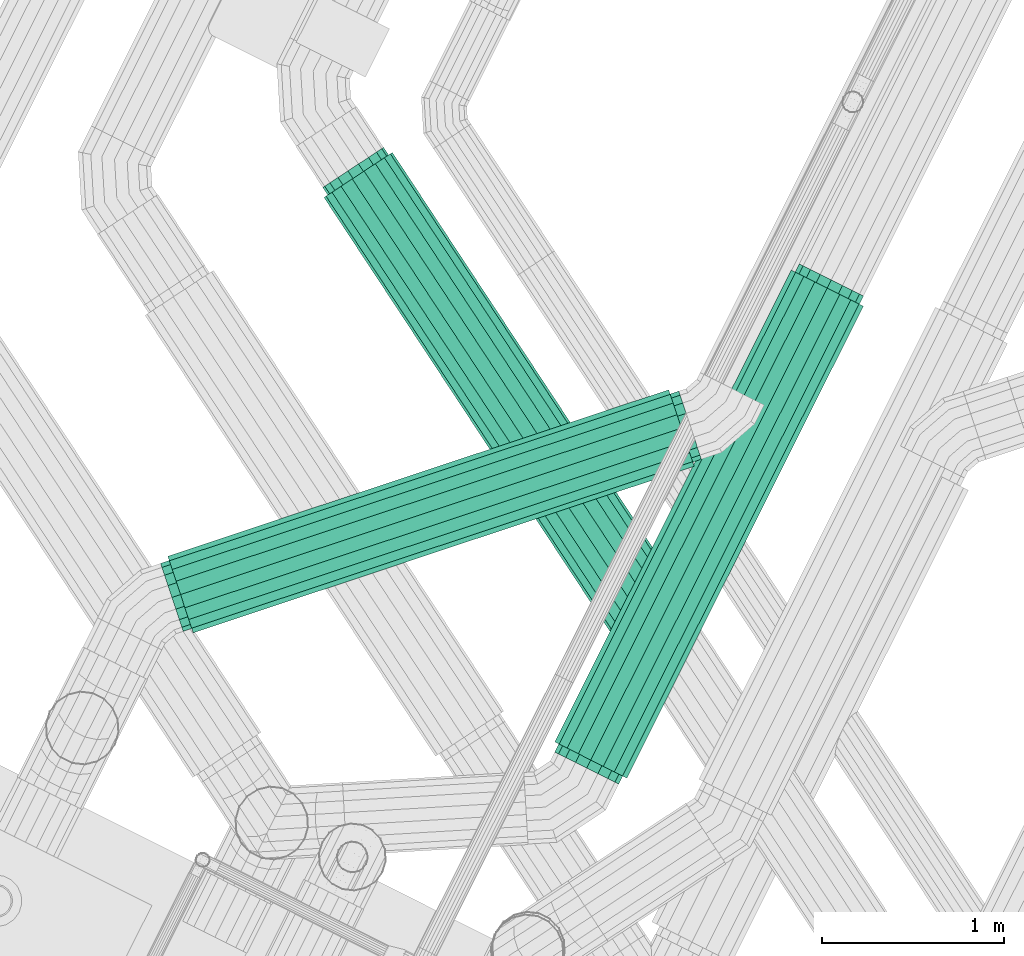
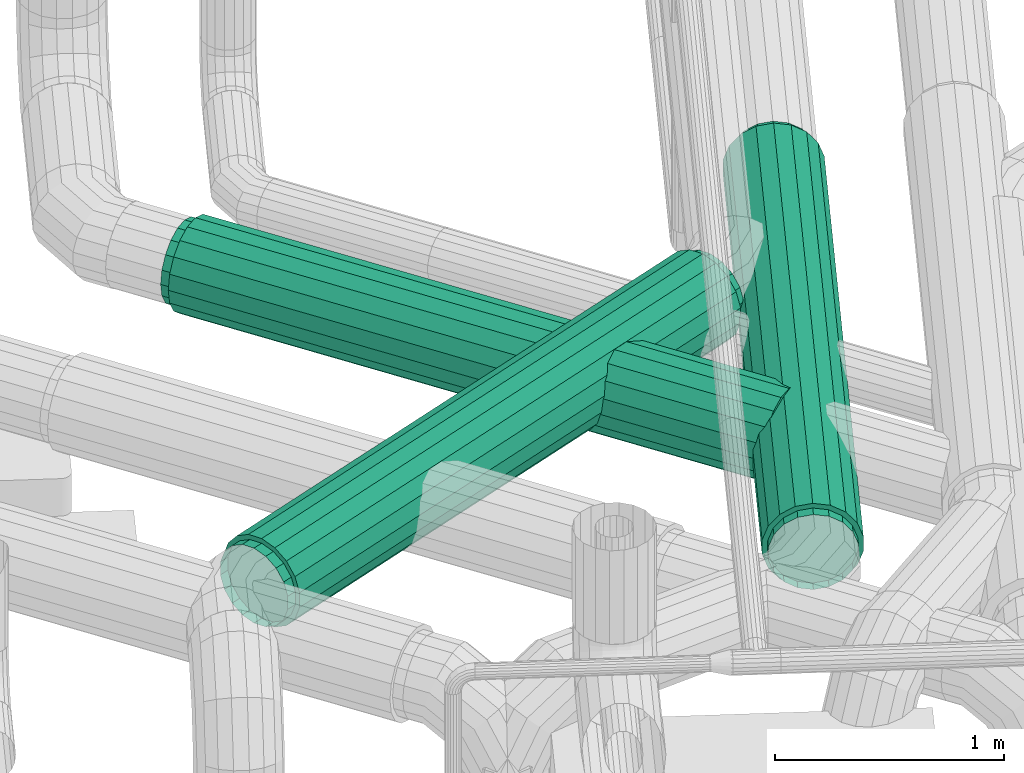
# One storey, part 19 of 206: 3 flow treatment devices.
"""IFC2X3 building model written with IfcOpenShell, lengths in metres."""

from ifc_helpers import new_model, si_unit, derived_unit, direction, frame, origin, place, context, subcontext, project, spatial, face_set, surface_model, source, transform, mapped, material, type_object, type_shapes, element, save


model = new_model("IFC2X3")

# Units and contexts
model_context = context("Model", 3, precision=5.2338327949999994e-05, world=origin(), true_north=direction((0.0, 1.0)))
body_context = subcontext(model_context, "Body", "Model", "MODEL_VIEW")
ifc_project = project(units=[si_unit("LENGTHUNIT", "METRE"), si_unit("AREAUNIT", "SQUARE_METRE"), si_unit("VOLUMEUNIT", "CUBIC_METRE"), si_unit("MASSUNIT", "GRAM", prefix="KILO"), si_unit("PLANEANGLEUNIT", "RADIAN"), derived_unit("THERMALTRANSMITTANCEUNIT", [(si_unit("MASSUNIT", "GRAM", prefix="KILO"), 1), (si_unit("THERMODYNAMICTEMPERATUREUNIT", "KELVIN"), -1), (si_unit("TIMEUNIT", "SECOND"), -3)])], contexts=[model_context])

# Site, building, storey
site_placement = place(None, frame((0.0, 0.0, 0.0), z_axis=(0.0, 0.0, 1.0), x_axis=(0.8939966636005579, -0.4480736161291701, 0.0)))
site = spatial("IfcSite", under=ifc_project, at=site_placement, Name="Default", CompositionType="ELEMENT")
building_placement = place(site_placement, origin())
building = spatial("IfcBuilding", under=site, at=building_placement, CompositionType="ELEMENT")
storey_placement = place(building_placement, origin())
storey = spatial("IfcBuildingStorey", under=building, at=storey_placement, Name="Erdgeschoss", CompositionType="ELEMENT", Elevation=0.0)

# Flow treatment devices
ifc_material = material(Name="IfcSurfaceStyle #280217")
distribution_element_type_1 = type_object("IfcDistributionElementType", Name="Telefonieschalldämpfer 281422:Telefonieschalldämpfer 281422", material=ifc_material)
shared_shape_1 = source(origin(), body_context, "Body", "SurfaceModel", [
    surface_model("IfcFaceBasedSurfaceModel", [(23.88822673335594, 10.17601061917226, 2.1999999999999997), (23.894257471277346, 10.186456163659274, 2.2684040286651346), (23.85095620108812, 10.211456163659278, 2.2684040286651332), (23.844925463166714, 10.201010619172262, 2.1999999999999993), (23.911622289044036, 10.216532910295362, 2.328557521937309), (23.868321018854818, 10.241532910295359, 2.32855752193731), (23.938226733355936, 10.262613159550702, 2.3732050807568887), (23.89492546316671, 10.287613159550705, 2.3732050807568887), (23.970861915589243, 10.319138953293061, 2.3969615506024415), (23.927560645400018, 10.344138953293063, 2.396961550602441), (24.005591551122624, 10.379292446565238, 2.3969615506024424), (23.96229028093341, 10.404292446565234, 2.3969615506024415), (24.038226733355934, 10.435818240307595, 2.3732050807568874), (23.99492546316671, 10.460818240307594, 2.373205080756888), (24.064831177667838, 10.481898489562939, 2.3285575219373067), (24.021529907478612, 10.506898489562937, 2.3285575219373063), (24.082195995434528, 10.511975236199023, 2.2684040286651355), (24.0388947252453, 10.536975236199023, 2.268404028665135), (24.088226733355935, 10.522420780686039, 2.200000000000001), (24.044925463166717, 10.547420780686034, 2.200000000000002), (24.08219599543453, 10.511975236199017, 2.131595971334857), (24.0388947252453, 10.536975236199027, 2.1315959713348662), (24.064831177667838, 10.481898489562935, 2.0714424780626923), (24.021529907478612, 10.506898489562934, 2.071442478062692), (24.038226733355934, 10.435818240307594, 2.0267949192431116), (23.99492546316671, 10.460818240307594, 2.0267949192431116), (24.005591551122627, 10.379292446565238, 2.0030384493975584), (23.962290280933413, 10.404292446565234, 2.0030384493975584), (23.970861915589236, 10.319138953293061, 2.0030384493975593), (23.927560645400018, 10.34413895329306, 2.0030384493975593), (23.938226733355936, 10.262613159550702, 2.0267949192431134), (23.89492546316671, 10.287613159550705, 2.026794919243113), (23.911622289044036, 10.216532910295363, 2.071442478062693), (23.868321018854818, 10.241532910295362, 2.071442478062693), (23.894257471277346, 10.186456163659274, 2.131595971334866), (23.850956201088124, 10.21145616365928, 2.131595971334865), (23.83242546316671, 10.179359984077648, 2.2000000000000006), (23.8392100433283, 10.191111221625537, 2.276954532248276), (21.327736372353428, 11.64111122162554, 2.276954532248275), (21.32095179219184, 11.62935998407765, 2.2000000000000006), (23.85874546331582, 10.224947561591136, 2.3446272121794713), (21.34727179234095, 11.674947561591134, 2.3446272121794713), (23.888675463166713, 10.276787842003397, 2.3948557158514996), (21.377201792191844, 11.7267878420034, 2.3948557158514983), (23.925390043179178, 10.340379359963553, 2.4215817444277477), (21.413916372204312, 11.790379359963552, 2.4215817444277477), (23.964460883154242, 10.408052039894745, 2.421581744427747), (21.45298721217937, 11.858052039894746, 2.4215817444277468), (24.00117546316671, 10.471643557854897, 2.394855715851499), (21.48970179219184, 11.9216435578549, 2.394855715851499), (24.0311054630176, 10.523483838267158, 2.344627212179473), (21.519631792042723, 11.973483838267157, 2.3446272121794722), (24.05064088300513, 10.557320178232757, 2.276954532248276), (21.539167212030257, 12.007320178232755, 2.276954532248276), (24.057425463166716, 10.569071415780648, 2.2000000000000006), (21.545951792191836, 12.019071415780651, 2.1999999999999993), (24.050640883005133, 10.557320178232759, 2.1230454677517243), (21.539167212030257, 12.007320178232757, 2.1230454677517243), (24.0311054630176, 10.52348383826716, 2.0553727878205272), (21.519631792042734, 11.973483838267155, 2.055372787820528), (24.001175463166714, 10.471643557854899, 2.0051442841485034), (21.489701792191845, 11.9216435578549, 2.005144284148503), (23.964460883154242, 10.408052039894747, 1.9784182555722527), (21.45298721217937, 11.85805203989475, 1.9784182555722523), (23.925390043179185, 10.340379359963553, 1.9784182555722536), (21.413916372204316, 11.790379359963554, 1.9784182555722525), (23.888675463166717, 10.2767878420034, 2.0051442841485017), (21.377201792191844, 11.726787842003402, 2.0051442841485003), (23.85874546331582, 10.224947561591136, 2.05537278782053), (21.34727179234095, 11.674947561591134, 2.0553727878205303), (23.8392100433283, 10.191111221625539, 2.1230454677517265), (21.327736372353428, 11.64111122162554, 2.1230454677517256), (23.94492546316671, 10.374215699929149, 2.2), (21.43345179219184, 11.824215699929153, 2.1999999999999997), (21.333451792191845, 11.651010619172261, 2.1999999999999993), (21.33948253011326, 11.661456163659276, 2.268404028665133), (21.29618125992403, 11.686456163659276, 2.2684040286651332), (21.290150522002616, 11.676010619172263, 2.1999999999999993), (21.356847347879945, 11.691532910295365, 2.3285575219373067), (21.31354607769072, 11.716532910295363, 2.3285575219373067), (21.38345179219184, 11.737613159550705, 2.3732050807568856), (21.34015052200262, 11.762613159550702, 2.373205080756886), (21.41608697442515, 11.794138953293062, 2.3969615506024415), (21.372785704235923, 11.819138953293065, 2.396961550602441), (21.450816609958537, 11.854292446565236, 2.3969615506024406), (21.40751533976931, 11.879292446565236, 2.396961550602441), (21.483451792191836, 11.910818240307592, 2.373205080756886), (21.44015052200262, 11.935818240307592, 2.373205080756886), (21.51005623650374, 11.956898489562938, 2.3285575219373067), (21.46675496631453, 11.981898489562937, 2.3285575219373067), (21.52742105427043, 11.986975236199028, 2.2684040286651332), (21.484119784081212, 12.011975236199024, 2.2684040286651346), (21.533451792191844, 11.997420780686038, 2.2), (21.49015052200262, 12.022420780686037, 2.2000000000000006), (21.52742105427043, 11.986975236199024, 2.1315959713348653), (21.48411978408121, 12.011975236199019, 2.131595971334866), (21.51005623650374, 11.956898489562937, 2.071442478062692), (21.466754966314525, 11.981898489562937, 2.071442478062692), (21.483451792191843, 11.910818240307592, 2.026794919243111), (21.44015052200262, 11.935818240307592, 2.0267949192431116), (21.45081660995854, 11.854292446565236, 2.0030384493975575), (21.407515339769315, 11.879292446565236, 2.0030384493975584), (21.41608697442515, 11.794138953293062, 2.003038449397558), (21.37278570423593, 11.819138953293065, 2.003038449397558), (21.38345179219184, 11.737613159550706, 2.026794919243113), (21.34015052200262, 11.762613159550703, 2.026794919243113), (21.356847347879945, 11.69153291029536, 2.071442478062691), (21.313546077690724, 11.71653291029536, 2.071442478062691), (21.339482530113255, 11.661456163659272, 2.1315959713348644), (21.296181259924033, 11.686456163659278, 2.1315959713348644)], [face_set([[[0, 1, 2, 3]], [[1, 4, 5, 2]], [[4, 6, 7, 5]], [[6, 8, 9, 7]], [[8, 10, 11, 9]], [[10, 12, 13, 11]], [[12, 14, 15, 13]], [[14, 16, 17, 15]], [[16, 18, 19, 17]], [[18, 20, 21, 19]], [[20, 22, 23, 21]], [[22, 24, 25, 23]], [[24, 26, 27, 25]], [[26, 28, 29, 27]], [[28, 30, 31, 29]], [[30, 32, 33, 31]], [[32, 34, 35, 33]], [[34, 0, 3, 35]], [[36, 37, 38, 39]], [[37, 40, 41, 38]], [[40, 42, 43, 41]], [[42, 44, 45, 43]], [[44, 46, 47, 45]], [[46, 48, 49, 47]], [[48, 50, 51, 49]], [[50, 52, 53, 51]], [[52, 54, 55, 53]], [[54, 56, 57, 55]], [[56, 58, 59, 57]], [[58, 60, 61, 59]], [[60, 62, 63, 61]], [[62, 64, 65, 63]], [[64, 66, 67, 65]], [[66, 68, 69, 67]], [[68, 70, 71, 69]], [[70, 36, 39, 71]], [[72, 37, 36]], [[72, 40, 37]], [[72, 42, 40]], [[72, 44, 42]], [[72, 46, 44]], [[72, 48, 46]], [[72, 50, 48]], [[72, 52, 50]], [[72, 54, 52]], [[72, 56, 54]], [[72, 58, 56]], [[72, 60, 58]], [[72, 62, 60]], [[72, 64, 62]], [[72, 66, 64]], [[72, 68, 66]], [[72, 70, 68]], [[72, 36, 70]], [[73, 71, 39]], [[73, 69, 71]], [[73, 67, 69]], [[73, 65, 67]], [[73, 63, 65]], [[73, 61, 63]], [[73, 59, 61]], [[73, 57, 59]], [[73, 55, 57]], [[73, 53, 55]], [[73, 51, 53]], [[73, 49, 51]], [[73, 47, 49]], [[73, 45, 47]], [[73, 43, 45]], [[73, 41, 43]], [[73, 38, 41]], [[73, 39, 38]], [[74, 75, 76, 77]], [[75, 78, 79, 76]], [[78, 80, 81, 79]], [[80, 82, 83, 81]], [[82, 84, 85, 83]], [[84, 86, 87, 85]], [[86, 88, 89, 87]], [[88, 90, 91, 89]], [[90, 92, 93, 91]], [[92, 94, 95, 93]], [[94, 96, 97, 95]], [[96, 98, 99, 97]], [[98, 100, 101, 99]], [[100, 102, 103, 101]], [[102, 104, 105, 103]], [[104, 106, 107, 105]], [[106, 108, 109, 107]], [[108, 74, 77, 109]]])]),
])
type_shapes(distribution_element_type_1, [shared_shape_1])
flow_treatment_device_1_placement = place(storey_placement, origin())
element("IfcFlowTreatmentDevice", 1, at=flow_treatment_device_1_placement, inside=storey, type_object=distribution_element_type_1, material=ifc_material, Name="Telefonieschalldämpfer", ObjectType="Telefonieschalldämpfer", context=body_context, shape_type="MappedRepresentation", body=[
    mapped(shared_shape_1, transform((0.0, 0.0, 0.0), scale=1.0)),
])
distribution_element_type_2 = type_object("IfcDistributionElementType", Name="Telefonieschalldämpfer 296637:Telefonieschalldämpfer 296637", material=ifc_material)
shared_shape_2 = source(origin(), body_context, "Body", "SurfaceModel", [
    surface_model("IfcFaceBasedSurfaceModel", [(24.01588544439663, 12.473429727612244, 2.4000000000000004), (23.947481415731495, 12.473429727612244, 2.387938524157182), (23.947481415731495, 12.42342972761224, 2.387938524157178), (24.01588544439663, 12.42342972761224, 2.3999999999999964), (23.88732792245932, 12.473429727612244, 2.3532088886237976), (23.88732792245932, 12.423429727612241, 2.3532088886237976), (23.842680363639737, 12.473429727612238, 2.3000000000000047), (23.842680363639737, 12.423429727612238, 2.300000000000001), (23.818923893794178, 12.473429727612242, 2.2347296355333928), (23.818923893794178, 12.42342972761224, 2.2347296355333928), (23.818923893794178, 12.473429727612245, 2.165270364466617), (23.818923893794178, 12.423429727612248, 2.165270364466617), (23.842680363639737, 12.473429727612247, 2.100000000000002), (23.842680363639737, 12.423429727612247, 2.100000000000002), (23.88732792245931, 12.473429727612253, 2.0467911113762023), (23.88732792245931, 12.42342972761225, 2.0467911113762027), (23.94748141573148, 12.47342972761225, 2.012061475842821), (23.94748141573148, 12.423429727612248, 2.0120614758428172), (24.015885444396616, 12.47342972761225, 2.0), (24.015885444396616, 12.423429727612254, 2.0), (24.084289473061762, 12.473429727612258, 2.012061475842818), (24.084289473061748, 12.423429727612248, 2.012061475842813), (24.144442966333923, 12.473429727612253, 2.0467911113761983), (24.144442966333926, 12.42342972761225, 2.0467911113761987), (24.189090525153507, 12.473429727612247, 2.099999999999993), (24.189090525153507, 12.423429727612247, 2.0999999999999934), (24.212846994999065, 12.473429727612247, 2.165270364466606), (24.212846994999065, 12.42342972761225, 2.165270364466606), (24.21284699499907, 12.473429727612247, 2.2347296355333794), (24.212846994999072, 12.423429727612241, 2.2347296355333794), (24.18909052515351, 12.473429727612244, 2.2999999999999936), (24.18909052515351, 12.423429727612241, 2.29999999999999), (24.144442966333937, 12.473429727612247, 2.35320888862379), (24.144442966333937, 12.423429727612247, 2.35320888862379), (24.084289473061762, 12.473429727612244, 2.3879385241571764), (24.084289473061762, 12.423429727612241, 2.3879385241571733), (24.015885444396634, 12.42342972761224, 2.4249999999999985), (23.93893091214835, 12.42342972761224, 2.411430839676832), (23.938930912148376, 9.52342972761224, 2.411430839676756), (24.015885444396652, 9.52342972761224, 2.4249999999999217), (23.87125823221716, 12.423429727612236, 2.3723599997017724), (23.87125823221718, 9.52342972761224, 2.3723599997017), (23.821029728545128, 12.42342972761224, 2.3125000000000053), (23.821029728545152, 9.52342972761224, 2.31249999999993), (23.79430369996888, 12.42342972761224, 2.239070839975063), (23.7943036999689, 9.523429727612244, 2.2390708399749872), (23.794303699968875, 12.423429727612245, 2.160929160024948), (23.794303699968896, 9.523429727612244, 2.1609291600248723), (23.821029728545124, 12.423429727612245, 2.087500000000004), (23.82102972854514, 9.523429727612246, 2.0874999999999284), (23.871258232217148, 12.42342972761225, 2.0276400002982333), (23.871258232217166, 9.52342972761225, 2.0276400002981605), (23.938930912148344, 12.42342972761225, 1.988569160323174), (23.938930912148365, 9.523429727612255, 1.9885691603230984), (24.015885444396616, 12.42342972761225, 1.974999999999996), (24.015885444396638, 9.523429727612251, 1.9749999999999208), (24.092839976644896, 12.423429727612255, 1.9885691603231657), (24.092839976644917, 9.523429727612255, 1.98856916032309), (24.160512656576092, 12.423429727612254, 2.0276400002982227), (24.160512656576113, 9.523429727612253, 2.0276400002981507), (24.210741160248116, 12.423429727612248, 2.087499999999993), (24.210741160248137, 9.52342972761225, 2.0874999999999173), (24.23746718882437, 12.423429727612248, 2.1609291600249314), (24.23746718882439, 9.523429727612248, 2.160929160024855), (24.237467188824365, 12.423429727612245, 2.2390708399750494), (24.23746718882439, 9.523429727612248, 2.239070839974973), (24.210741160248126, 12.423429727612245, 2.3124999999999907), (24.210741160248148, 9.523429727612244, 2.3124999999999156), (24.1605126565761, 12.423429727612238, 2.372359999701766), (24.160512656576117, 9.52342972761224, 2.372359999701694), (24.0928399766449, 12.423429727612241, 2.4114308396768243), (24.092839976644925, 9.52342972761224, 2.411430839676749), (24.015885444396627, 12.423429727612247, 2.1999999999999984), (24.01588544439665, 9.523429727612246, 2.1999999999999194), (24.015885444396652, 9.52342972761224, 2.399999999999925), (23.947481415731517, 9.52342972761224, 2.387938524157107), (23.947481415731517, 9.47342972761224, 2.3879385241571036), (24.015885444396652, 9.473429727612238, 2.3999999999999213), (23.887327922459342, 9.52342972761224, 2.3532088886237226), (23.887327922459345, 9.473429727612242, 2.353208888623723), (23.842680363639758, 9.52342972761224, 2.2999999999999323), (23.842680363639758, 9.473429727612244, 2.2999999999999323), (23.818923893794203, 9.523429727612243, 2.2347296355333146), (23.818923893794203, 9.473429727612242, 2.234729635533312), (23.818923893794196, 9.523429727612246, 2.165270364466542), (23.818923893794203, 9.473429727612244, 2.165270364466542), (23.842680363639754, 9.523429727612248, 2.0999999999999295), (23.842680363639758, 9.473429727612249, 2.099999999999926), (23.887327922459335, 9.523429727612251, 2.046791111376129), (23.887327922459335, 9.473429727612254, 2.0467911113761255), (23.947481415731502, 9.52342972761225, 2.0120614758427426), (23.947481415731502, 9.473429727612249, 2.012061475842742), (24.015885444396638, 9.523429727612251, 2.0), (24.015885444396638, 9.473429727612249, 2.0), (24.084289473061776, 9.52342972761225, 2.012061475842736), (24.084289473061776, 9.473429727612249, 2.0120614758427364), (24.144442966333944, 9.523429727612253, 2.046791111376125), (24.144442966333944, 9.473429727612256, 2.0467911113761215), (24.189090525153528, 9.52342972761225, 2.0999999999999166), (24.189090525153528, 9.473429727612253, 2.099999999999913), (24.212846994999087, 9.52342972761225, 2.1652703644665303), (24.212846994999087, 9.473429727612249, 2.1652703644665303), (24.212846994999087, 9.523429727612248, 2.234729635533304), (24.212846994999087, 9.473429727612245, 2.2347296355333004), (24.18909052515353, 9.52342972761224, 2.2999999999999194), (24.18909052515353, 9.473429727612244, 2.29999999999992), (24.14444296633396, 9.52342972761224, 2.353208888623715), (24.14444296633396, 9.473429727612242, 2.353208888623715), (24.084289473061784, 9.52342972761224, 2.3879385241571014), (24.084289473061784, 9.47342972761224, 2.387938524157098)], [face_set([[[0, 1, 2, 3]], [[1, 4, 5, 2]], [[4, 6, 7, 5]], [[6, 8, 9, 7]], [[8, 10, 11, 9]], [[10, 12, 13, 11]], [[12, 14, 15, 13]], [[14, 16, 17, 15]], [[16, 18, 19, 17]], [[18, 20, 21, 19]], [[20, 22, 23, 21]], [[22, 24, 25, 23]], [[24, 26, 27, 25]], [[26, 28, 29, 27]], [[28, 30, 31, 29]], [[30, 32, 33, 31]], [[32, 34, 35, 33]], [[34, 0, 3, 35]], [[36, 37, 38, 39]], [[37, 40, 41, 38]], [[40, 42, 43, 41]], [[42, 44, 45, 43]], [[44, 46, 47, 45]], [[46, 48, 49, 47]], [[48, 50, 51, 49]], [[50, 52, 53, 51]], [[52, 54, 55, 53]], [[54, 56, 57, 55]], [[56, 58, 59, 57]], [[58, 60, 61, 59]], [[60, 62, 63, 61]], [[62, 64, 65, 63]], [[64, 66, 67, 65]], [[66, 68, 69, 67]], [[68, 70, 71, 69]], [[70, 36, 39, 71]], [[72, 37, 36]], [[72, 40, 37]], [[72, 42, 40]], [[72, 44, 42]], [[72, 46, 44]], [[72, 48, 46]], [[72, 50, 48]], [[72, 52, 50]], [[72, 54, 52]], [[72, 56, 54]], [[72, 58, 56]], [[72, 60, 58]], [[72, 62, 60]], [[72, 64, 62]], [[72, 66, 64]], [[72, 68, 66]], [[72, 70, 68]], [[72, 36, 70]], [[73, 71, 39]], [[73, 69, 71]], [[73, 67, 69]], [[73, 65, 67]], [[73, 63, 65]], [[73, 61, 63]], [[73, 59, 61]], [[73, 57, 59]], [[73, 55, 57]], [[73, 53, 55]], [[73, 51, 53]], [[73, 49, 51]], [[73, 47, 49]], [[73, 45, 47]], [[73, 43, 45]], [[73, 41, 43]], [[73, 38, 41]], [[73, 39, 38]], [[74, 75, 76, 77]], [[75, 78, 79, 76]], [[78, 80, 81, 79]], [[80, 82, 83, 81]], [[82, 84, 85, 83]], [[84, 86, 87, 85]], [[86, 88, 89, 87]], [[88, 90, 91, 89]], [[90, 92, 93, 91]], [[92, 94, 95, 93]], [[94, 96, 97, 95]], [[96, 98, 99, 97]], [[98, 100, 101, 99]], [[100, 102, 103, 101]], [[102, 104, 105, 103]], [[104, 106, 107, 105]], [[106, 108, 109, 107]], [[108, 74, 77, 109]]])]),
])
type_shapes(distribution_element_type_2, [shared_shape_2])
flow_treatment_device_2_placement = place(storey_placement, origin())
element("IfcFlowTreatmentDevice", 2, at=flow_treatment_device_2_placement, inside=storey, type_object=distribution_element_type_2, material=ifc_material, Name="Telefonieschalldämpfer", ObjectType="Telefonieschalldämpfer", context=body_context, shape_type="MappedRepresentation", body=[
    mapped(shared_shape_2, transform((0.0, 0.0, 0.0), scale=1.0)),
])
distribution_element_type_3 = type_object("IfcDistributionElementType", Name="Telefonieschalldämpfer 620691:Telefonieschalldämpfer 620691", material=ifc_material)
shared_shape_3 = source(origin(), body_context, "Body", "SurfaceModel", [
    surface_model("IfcFaceBasedSurfaceModel", [(21.558105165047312, 9.291051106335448, 2.0499999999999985), (21.509736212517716, 9.339420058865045, 2.062061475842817), (21.545091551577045, 9.374775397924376, 2.0620614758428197), (21.59346050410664, 9.32640644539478, 2.0500000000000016), (21.467201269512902, 9.38195500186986, 2.0967911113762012), (21.50255660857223, 9.41731034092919, 2.0967911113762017), (21.435630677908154, 9.413525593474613, 2.1499999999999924), (21.470986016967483, 9.44888093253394, 2.149999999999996), (21.418832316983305, 9.43032395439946, 2.2152703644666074), (21.454187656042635, 9.465679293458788, 2.2152703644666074), (21.418832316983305, 9.430323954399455, 2.284729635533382), (21.454187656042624, 9.465679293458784, 2.284729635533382), (21.435630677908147, 9.413525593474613, 2.349999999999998), (21.47098601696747, 9.44888093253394, 2.3499999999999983), (21.467201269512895, 9.381955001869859, 2.403208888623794), (21.50255660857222, 9.417310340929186, 2.4032088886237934), (21.5097362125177, 9.339420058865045, 2.4379385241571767), (21.54509155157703, 9.374775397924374, 2.43793852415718), (21.5581051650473, 9.291051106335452, 2.450000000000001), (21.593460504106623, 9.326406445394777, 2.450000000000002), (21.606474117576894, 9.242682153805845, 2.437938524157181), (21.641829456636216, 9.278037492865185, 2.4379385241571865), (21.649009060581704, 9.20014721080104, 2.4032088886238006), (21.684364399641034, 9.235502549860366, 2.4032088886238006), (21.680579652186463, 9.168576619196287, 2.35000000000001), (21.71593499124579, 9.203931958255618, 2.3500000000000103), (21.697378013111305, 9.151778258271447, 2.2847296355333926), (21.732733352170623, 9.187133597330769, 2.284729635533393), (21.697378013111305, 9.151778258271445, 2.21527036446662), (21.73273335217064, 9.187133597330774, 2.21527036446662), (21.680579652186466, 9.168576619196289, 2.150000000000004), (21.715934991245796, 9.203931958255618, 2.150000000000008), (21.64900906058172, 9.200147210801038, 2.09679111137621), (21.684364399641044, 9.235502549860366, 2.09679111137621), (21.6064741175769, 9.242682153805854, 2.0620614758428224), (21.641829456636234, 9.278037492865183, 2.062061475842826), (21.59346050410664, 9.32640644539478, 2.0250000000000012), (21.53904543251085, 9.380821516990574, 2.038569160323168), (23.58965509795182, 11.431431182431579, 2.038569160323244), (23.64407016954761, 11.377016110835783, 2.025000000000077), (21.49119362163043, 9.42867332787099, 2.077640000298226), (23.541803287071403, 11.479282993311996, 2.077640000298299), (21.45567670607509, 9.464190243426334, 2.137499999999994), (23.506286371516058, 11.514799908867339, 2.1375000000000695), (21.436778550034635, 9.483088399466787, 2.210929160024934), (23.487388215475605, 11.53369806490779, 2.2109291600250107), (21.436778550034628, 9.483088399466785, 2.2890708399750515), (23.487388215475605, 11.533698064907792, 2.2890708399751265), (21.455676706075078, 9.464190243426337, 2.3624999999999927), (23.50628637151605, 11.51479990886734, 2.362500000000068), (21.49119362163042, 9.42867332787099, 2.422359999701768), (23.54180328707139, 11.479282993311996, 2.4223599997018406), (21.539045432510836, 9.380821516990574, 2.461430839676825), (23.5896550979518, 11.431431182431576, 2.461430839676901), (21.59346050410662, 9.326406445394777, 2.4750000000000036), (23.644070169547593, 11.377016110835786, 2.475000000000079), (21.64787557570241, 9.271991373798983, 2.4614308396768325), (23.698485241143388, 11.322601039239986, 2.461430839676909), (21.69572738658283, 9.224139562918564, 2.4223599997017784), (23.7463370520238, 11.274749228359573, 2.422359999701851), (21.731244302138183, 9.188622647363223, 2.362500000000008), (23.78185396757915, 11.23923231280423, 2.3625000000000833), (21.750142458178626, 9.169724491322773, 2.289070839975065), (23.800752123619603, 11.220334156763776, 2.2890708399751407), (21.750142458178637, 9.169724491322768, 2.21092916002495), (23.800752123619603, 11.220334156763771, 2.210929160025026), (21.731244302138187, 9.18862264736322, 2.137500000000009), (23.781853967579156, 11.239232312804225, 2.1375000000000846), (21.69572738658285, 9.224139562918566, 2.0776400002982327), (23.746337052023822, 11.274749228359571, 2.077640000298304), (21.647875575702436, 9.271991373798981, 2.0385691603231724), (23.698485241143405, 11.322601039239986, 2.038569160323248), (21.593460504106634, 9.326406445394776, 2.250000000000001), (23.644070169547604, 11.37701611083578, 2.25000000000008), (23.644070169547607, 11.37701611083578, 2.050000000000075), (23.595701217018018, 11.425385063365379, 2.0620614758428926), (23.631056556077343, 11.460740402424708, 2.062061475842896), (23.67942550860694, 11.412371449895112, 2.0500000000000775), (23.553166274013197, 11.467920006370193, 2.0967911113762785), (23.588521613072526, 11.503275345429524, 2.096791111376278), (23.521595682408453, 11.499490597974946, 2.150000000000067), (23.556951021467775, 11.53484593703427, 2.150000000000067), (23.504797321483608, 11.51628895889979, 2.215270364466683), (23.540152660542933, 11.55164429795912, 2.215270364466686), (23.5047973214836, 11.516288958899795, 2.2847296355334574), (23.54015266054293, 11.551644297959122, 2.2847296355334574), (23.52159568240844, 11.499490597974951, 2.350000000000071), (23.556951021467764, 11.534845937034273, 2.3500000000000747), (23.55316627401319, 11.467920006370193, 2.4032088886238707), (23.588521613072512, 11.50327534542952, 2.4032088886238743), (23.595701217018, 11.42538506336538, 2.4379385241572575), (23.63105655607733, 11.460740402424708, 2.4379385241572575), (23.644070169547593, 11.377016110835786, 2.450000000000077), (23.67942550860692, 11.412371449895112, 2.4500000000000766), (23.692439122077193, 11.32864715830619, 2.4379385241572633), (23.727794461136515, 11.364002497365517, 2.4379385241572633), (23.734974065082, 11.28611221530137, 2.4032088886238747), (23.770329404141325, 11.321467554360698, 2.403208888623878), (23.766544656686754, 11.254541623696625, 2.3500000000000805), (23.801899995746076, 11.289896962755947, 2.350000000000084), (23.783343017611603, 11.237743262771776, 2.284729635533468), (23.818698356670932, 11.273098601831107, 2.284729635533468), (23.783343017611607, 11.23774326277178, 2.2152703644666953), (23.818698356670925, 11.273098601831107, 2.215270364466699), (23.766544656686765, 11.254541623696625, 2.15000000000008), (23.801899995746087, 11.289896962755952, 2.15000000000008), (23.734974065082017, 11.28611221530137, 2.0967911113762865), (23.770329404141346, 11.3214675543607, 2.096791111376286), (23.692439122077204, 11.328647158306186, 2.0620614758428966), (23.727794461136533, 11.364002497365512, 2.0620614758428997)], [face_set([[[0, 1, 2, 3]], [[1, 4, 5, 2]], [[4, 6, 7, 5]], [[6, 8, 9, 7]], [[8, 10, 11, 9]], [[10, 12, 13, 11]], [[12, 14, 15, 13]], [[14, 16, 17, 15]], [[16, 18, 19, 17]], [[18, 20, 21, 19]], [[20, 22, 23, 21]], [[22, 24, 25, 23]], [[24, 26, 27, 25]], [[26, 28, 29, 27]], [[28, 30, 31, 29]], [[30, 32, 33, 31]], [[32, 34, 35, 33]], [[34, 0, 3, 35]], [[36, 37, 38, 39]], [[37, 40, 41, 38]], [[40, 42, 43, 41]], [[42, 44, 45, 43]], [[44, 46, 47, 45]], [[46, 48, 49, 47]], [[48, 50, 51, 49]], [[50, 52, 53, 51]], [[52, 54, 55, 53]], [[54, 56, 57, 55]], [[56, 58, 59, 57]], [[58, 60, 61, 59]], [[60, 62, 63, 61]], [[62, 64, 65, 63]], [[64, 66, 67, 65]], [[66, 68, 69, 67]], [[68, 70, 71, 69]], [[70, 36, 39, 71]], [[72, 37, 36]], [[72, 40, 37]], [[72, 42, 40]], [[72, 44, 42]], [[72, 46, 44]], [[72, 48, 46]], [[72, 50, 48]], [[72, 52, 50]], [[72, 54, 52]], [[72, 56, 54]], [[72, 58, 56]], [[72, 60, 58]], [[72, 62, 60]], [[72, 64, 62]], [[72, 66, 64]], [[72, 68, 66]], [[72, 70, 68]], [[72, 36, 70]], [[73, 71, 39]], [[73, 69, 71]], [[73, 67, 69]], [[73, 65, 67]], [[73, 63, 65]], [[73, 61, 63]], [[73, 59, 61]], [[73, 57, 59]], [[73, 55, 57]], [[73, 53, 55]], [[73, 51, 53]], [[73, 49, 51]], [[73, 47, 49]], [[73, 45, 47]], [[73, 43, 45]], [[73, 41, 43]], [[73, 38, 41]], [[73, 39, 38]], [[74, 75, 76, 77]], [[75, 78, 79, 76]], [[78, 80, 81, 79]], [[80, 82, 83, 81]], [[82, 84, 85, 83]], [[84, 86, 87, 85]], [[86, 88, 89, 87]], [[88, 90, 91, 89]], [[90, 92, 93, 91]], [[92, 94, 95, 93]], [[94, 96, 97, 95]], [[96, 98, 99, 97]], [[98, 100, 101, 99]], [[100, 102, 103, 101]], [[102, 104, 105, 103]], [[104, 106, 107, 105]], [[106, 108, 109, 107]], [[108, 74, 77, 109]]])]),
])
type_shapes(distribution_element_type_3, [shared_shape_3])
flow_treatment_device_3_placement = place(storey_placement, origin())
element("IfcFlowTreatmentDevice", 3, at=flow_treatment_device_3_placement, inside=storey, type_object=distribution_element_type_3, material=ifc_material, Name="Telefonieschalldämpfer", ObjectType="Telefonieschalldämpfer", context=body_context, shape_type="MappedRepresentation", body=[
    mapped(shared_shape_3, transform((0.0, 0.0, 0.0), scale=1.0)),
])

save(model, "model.ifc")
